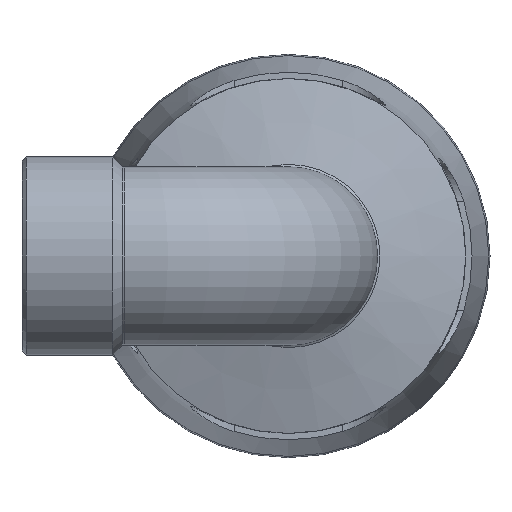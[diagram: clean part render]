
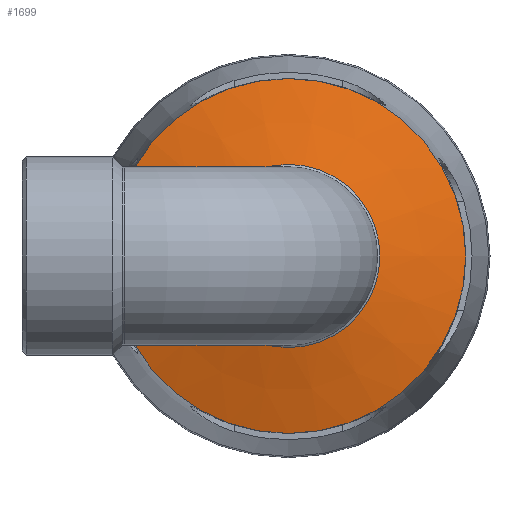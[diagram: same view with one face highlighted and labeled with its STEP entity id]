
A CAD part, left-side view. The second image highlights one B-rep face of the part: STEP entity #1699.
In plain terms, the highlighted conical face has half-angle 75 degrees and reference radius 34.053 mm.
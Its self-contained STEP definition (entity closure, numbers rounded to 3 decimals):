
#335=CONICAL_SURFACE('',#1811,34.053,75.);
#341=FACE_BOUND('',#479,.T.);
#369=FACE_OUTER_BOUND('',#478,.T.);
#478=EDGE_LOOP('',(#1107));
#479=EDGE_LOOP('',(#1108));
#613=CIRCLE('',#1810,23.398);
#614=CIRCLE('',#1812,45.32);
#708=VERTEX_POINT('',#2503);
#709=VERTEX_POINT('',#2506);
#867=EDGE_CURVE('',#708,#708,#613,.T.);
#868=EDGE_CURVE('',#709,#709,#614,.T.);
#1107=ORIENTED_EDGE('',*,*,#868,.F.);
#1108=ORIENTED_EDGE('',*,*,#867,.F.);
#1699=ADVANCED_FACE('',(#369,#341),#335,.T.);
#1810=AXIS2_PLACEMENT_3D('',#2504,#2017,#2018);
#1811=AXIS2_PLACEMENT_3D('',#2505,#2019,#2020);
#1812=AXIS2_PLACEMENT_3D('',#2507,#2021,#2022);
#2017=DIRECTION('center_axis',(-1.,0.,0.));
#2018=DIRECTION('ref_axis',(0.,-1.,0.));
#2019=DIRECTION('center_axis',(1.,0.,0.));
#2020=DIRECTION('ref_axis',(0.,-1.,0.));
#2021=DIRECTION('center_axis',(1.,0.,0.));
#2022=DIRECTION('ref_axis',(0.,0.,-1.));
#2503=CARTESIAN_POINT('',(46.226,23.398,0.));
#2504=CARTESIAN_POINT('Origin',(46.226,0.,0.));
#2505=CARTESIAN_POINT('Origin',(49.081,0.,0.));
#2506=CARTESIAN_POINT('',(52.1,45.32,0.));
#2507=CARTESIAN_POINT('Origin',(52.1,0.,0.));
